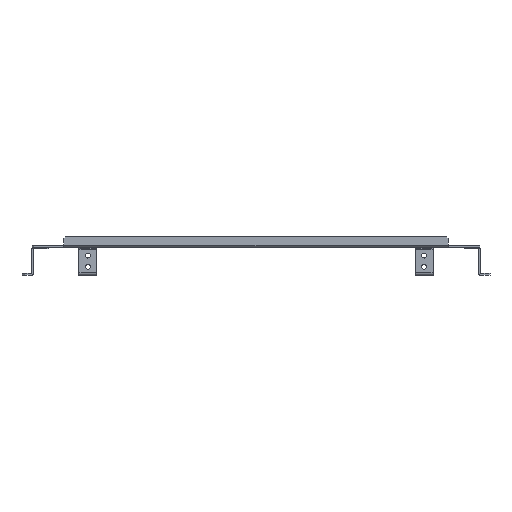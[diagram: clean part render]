
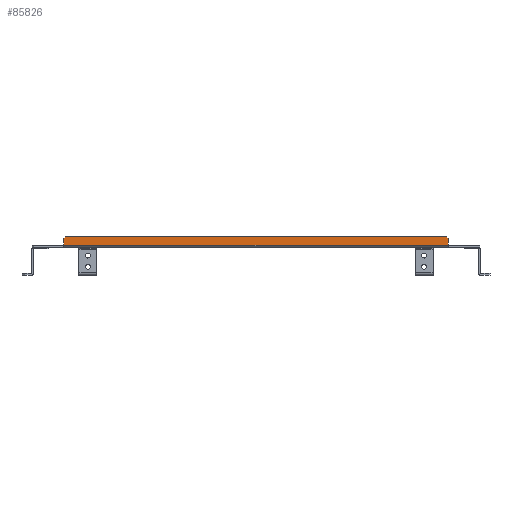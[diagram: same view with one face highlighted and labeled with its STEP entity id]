
A CAD part, front view. The second image highlights one B-rep face of the part: STEP entity #85826.
In plain terms, the highlighted planar face has unit normal (0, -1, 0) as drawn and (1, 0, 0) by its records, which use the part's own axes.
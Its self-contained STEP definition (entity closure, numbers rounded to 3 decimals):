
#84501=CARTESIAN_POINT(' ',(124.5,0.6,-214.5));
#84502=VERTEX_POINT(' ',#84501);
#84516=CARTESIAN_POINT(' ',(124.5,0.6,214.5));
#84521=DIRECTION(' ',(0.,0.,-1.));
#84526=VECTOR(' ',#84521,1.);
#84531=LINE('',#84516,#84526);
#84536=CARTESIAN_POINT(' ',(124.5,0.6,214.5));
#84537=VERTEX_POINT(' ',#84536);
#84541=EDGE_CURVE(' ',#84537,#84502,#84531,.T.);
#85396=CARTESIAN_POINT(' ',(124.5,8.,-214.5));
#85397=VERTEX_POINT(' ',#85396);
#85411=CARTESIAN_POINT(' ',(124.5,0.6,-214.5));
#85416=DIRECTION(' ',(0.,1.,0.));
#85421=VECTOR(' ',#85416,1.);
#85426=LINE('',#85411,#85421);
#85431=EDGE_CURVE(' ',#84502,#85397,#85426,.T.);
#85646=DIRECTION(' ',(1.,0.,-0.));
#85651=CARTESIAN_POINT(' ',(124.5,0.6,-214.5));
#85656=DIRECTION(' ',(-0.,1.,0.));
#85661=AXIS2_PLACEMENT_3D(' ',#85651,#85646,#85656);
#85666=PLANE('NONE',#85661);
#85671=ORIENTED_EDGE(' ',*,*,#85431,.T.);
#85676=CARTESIAN_POINT(' ',(124.5,8.,-214.5));
#85681=DIRECTION(' ',(0.,0.707,0.707));
#85686=VECTOR(' ',#85681,1.);
#85691=LINE('',#85676,#85686);
#85696=CARTESIAN_POINT(' ',(124.5,10.,-212.5));
#85697=VERTEX_POINT(' ',#85696);
#85701=EDGE_CURVE(' ',#85397,#85697,#85691,.T.);
#85706=ORIENTED_EDGE(' ',*,*,#85701,.T.);
#85711=CARTESIAN_POINT(' ',(124.5,10.,212.5));
#85716=DIRECTION(' ',(0.,0.,-1.));
#85721=VECTOR(' ',#85716,1.);
#85726=LINE('',#85711,#85721);
#85731=CARTESIAN_POINT(' ',(124.5,10.,212.5));
#85732=VERTEX_POINT(' ',#85731);
#85736=EDGE_CURVE(' ',#85732,#85697,#85726,.T.);
#85741=ORIENTED_EDGE(' ',*,*,#85736,.F.);
#85746=CARTESIAN_POINT(' ',(124.5,10.,212.5));
#85751=DIRECTION(' ',(0.,-0.707,0.707));
#85756=VECTOR(' ',#85751,1.);
#85761=LINE('',#85746,#85756);
#85766=CARTESIAN_POINT(' ',(124.5,8.,214.5));
#85767=VERTEX_POINT(' ',#85766);
#85771=EDGE_CURVE(' ',#85732,#85767,#85761,.T.);
#85776=ORIENTED_EDGE(' ',*,*,#85771,.T.);
#85781=CARTESIAN_POINT(' ',(124.5,0.6,214.5));
#85786=DIRECTION(' ',(0.,1.,0.));
#85791=VECTOR(' ',#85786,1.);
#85796=LINE('',#85781,#85791);
#85801=EDGE_CURVE(' ',#84537,#85767,#85796,.T.);
#85806=ORIENTED_EDGE(' ',*,*,#85801,.F.);
#85811=ORIENTED_EDGE(' ',*,*,#84541,.T.);
#85816=EDGE_LOOP(' ',(#85671,#85706,#85741,#85776,#85806,#85811));
#85821=FACE_OUTER_BOUND(' ',#85816,.T.);
#85826=ADVANCED_FACE('NONE',(#85821),#85666,.T.);
